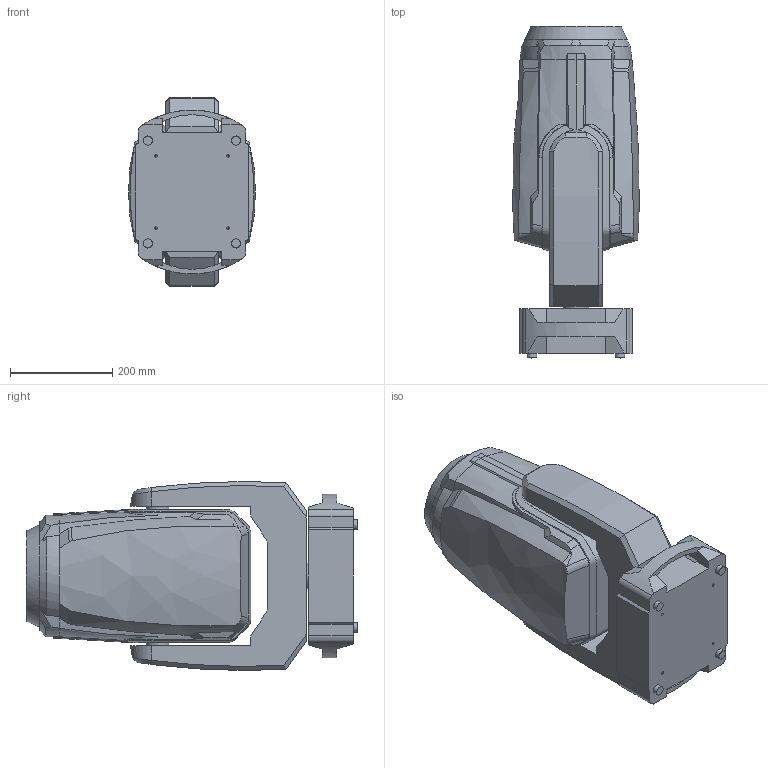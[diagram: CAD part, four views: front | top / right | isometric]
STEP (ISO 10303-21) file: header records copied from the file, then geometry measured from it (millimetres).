
FILE_DESCRIPTION(/* description */ ('Unknown'),/* implementation_level */ '2;1');
FILE_NAME(/* name */ '3D_Robin T.5 Profile',/* time_stamp */ '2024-08-05T15:16:03+02:00',/* author */ ('Unknown'),/* organization */ ('Unknown'),/* preprocessor_version */ 'ST-DEVELOPER v19.4',/* originating_system */ 'Solid Edge',/* authorisation */ 'Unknown');
FILE_SCHEMA (('AUTOMOTIVE_DESIGN {1 0 10303 214 3 1 1}'));
Length unit declared in the file: millimetre
Products named in the file (4): Robin T.5 Profile 3D; Zakladna T.5; Rameno T.5; Hlava T.5
Assembly tree (3 placements, depth 2):
  Robin T.5 Profile 3D
    Zakladna T.5
    Rameno T.5
    Hlava T.5
Bounding box: 248 x 648.4 x 369.21 mm (x, y, z)
Volume: 31510532.7 mm3; surface area: 955912.2 mm2
Topology: 3 solids, 3 shells, 276 faces, 732 edges, 473 vertices
Faces by surface type: plane 150, bspline 65, cylinder 41, cone 19, sphere 1
Full cylindrical faces by diameter (mm): 5 x8, 18 x4, 20 x1, 44 x2, 50 x1, 60 x1
Entity records: 15549 total; most frequent: CARTESIAN_POINT 9360, ORIENTED_EDGE 1406, DIRECTION 982, EDGE_CURVE 703, VERTEX_POINT 467, AXIS2_PLACEMENT_3D 329, LINE 324, VECTOR 324
